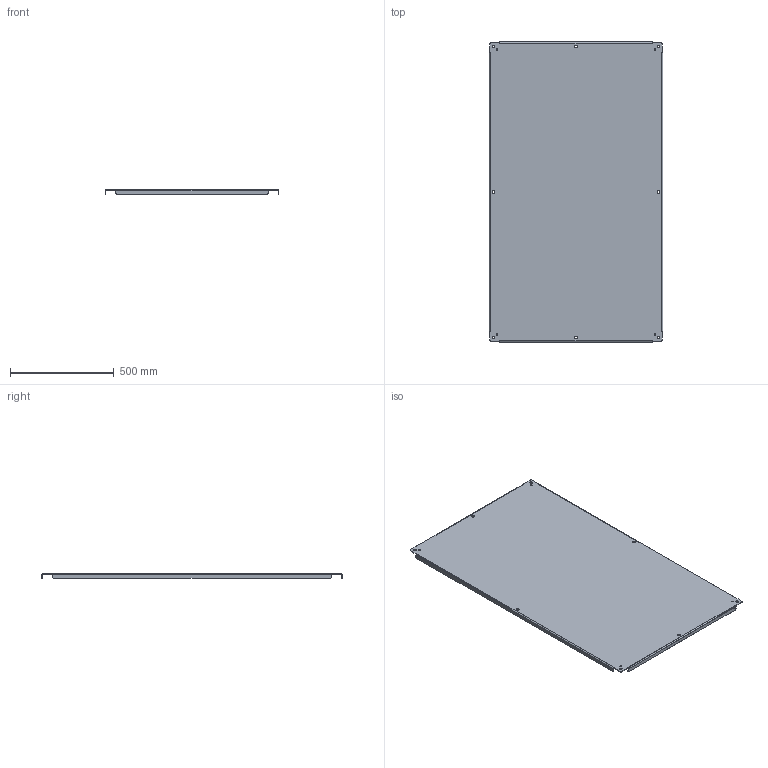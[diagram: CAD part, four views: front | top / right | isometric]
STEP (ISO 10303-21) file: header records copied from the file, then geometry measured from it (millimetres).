
FILE_DESCRIPTION((''),'2;1');
FILE_NAME('SCE-60P36_ASM','2009-04-20T',('mikek'),(''),'PRO/ENGINEER BY PARAMETRIC TECHNOLOGY CORPORATION, 2008010','PRO/ENGINEER BY PARAMETRIC TECHNOLOGY CORPORATION, 2008010','');
FILE_SCHEMA(('CONFIG_CONTROL_DESIGN'));
Length unit declared in the file: inch
Products named in the file (2): SCE-60P36-SUBPNL; SCE-60P36_ASM
Assembly tree (1 placements, depth 2):
  SCE-60P36_ASM
    SCE-60P36-SUBPNL
Bounding box: 836.61 x 1446.21 x 22.23 mm (x, y, z)
Volume: 4059916.7 mm3; surface area: 2573559.8 mm2
Topology: 1 solids, 1 shells, 106 faces, 280 edges, 176 vertices
Faces by surface type: cylinder 44, plane 38, bspline 24
Entity records: 3919 total; most frequent: CARTESIAN_POINT 1197, ORIENTED_EDGE 560, DIRECTION 538, EDGE_CURVE 280, AXIS2_PLACEMENT_3D 189, VERTEX_POINT 176, VECTOR 160, LINE 160
